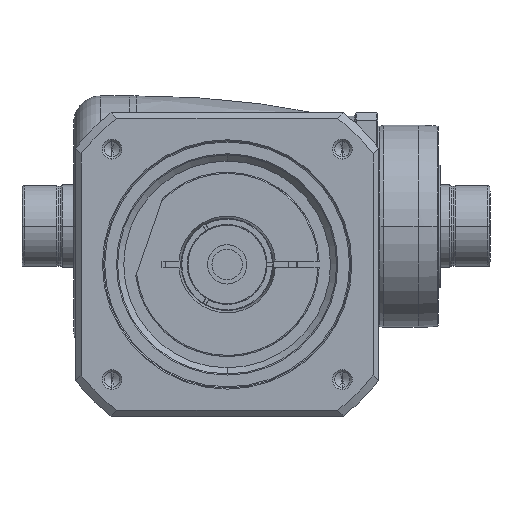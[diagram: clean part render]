
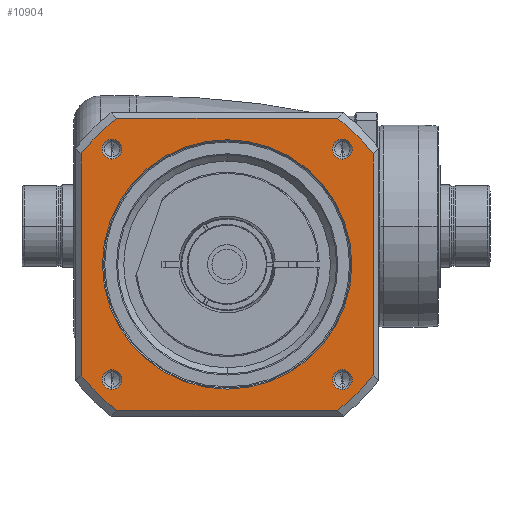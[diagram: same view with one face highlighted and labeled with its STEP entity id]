
A CAD part, front view. The second image highlights one B-rep face of the part: STEP entity #10904.
In plain terms, the highlighted planar face has unit normal (0, -1, 0) as drawn and (0, 0, 1) by its records, which use the part's own axes.
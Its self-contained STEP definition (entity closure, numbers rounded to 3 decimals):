
#9644=CARTESIAN_POINT('',(0.,0.,56.));
#9645=DIRECTION('',(0.,0.,-1.));
#9646=DIRECTION('',(0.,-1.,0.));
#9647=AXIS2_PLACEMENT_3D('',#9644,#9645,#9646);
#9649=CARTESIAN_POINT('',(0.,0.,
56.));
#9650=DIRECTION('',(0.,0.,-1.));
#9651=DIRECTION('',(0.,1.,0.));
#9652=AXIS2_PLACEMENT_3D('',#9649,#9650,#9651);
#9654=DIRECTION('',(1.,0.,0.));
#9655=VECTOR('',#9654,98.331);
#9656=CARTESIAN_POINT('',(-49.166,65.,56.));
#9657=LINE('',#9656,#9655);
#9658=CARTESIAN_POINT('',(0.,0.,56.));
#9659=DIRECTION('',(0.,0.,1.));
#9660=DIRECTION('',(0.798,0.603,0.));
#9661=AXIS2_PLACEMENT_3D('',#9658,#9659,#9660);
#9663=DIRECTION('',(0.,1.,0.));
#9664=VECTOR('',#9663,98.331);
#9665=CARTESIAN_POINT('',(65.,-49.166,56.));
#9666=LINE('',#9665,#9664);
#9667=DIRECTION('',(1.,0.,0.));
#9668=VECTOR('',#9667,98.331);
#9669=CARTESIAN_POINT('',(-49.166,-65.,56.));
#9670=LINE('',#9669,#9668);
#9671=CARTESIAN_POINT('',(0.,0.,56.));
#9672=DIRECTION('',(0.,0.,1.));
#9673=DIRECTION('',(-0.798,-0.603,0.));
#9674=AXIS2_PLACEMENT_3D('',#9671,#9672,#9673);
#9676=DIRECTION('',(0.,1.,0.));
#9677=VECTOR('',#9676,98.331);
#9678=CARTESIAN_POINT('',(-65.,-49.166,56.));
#9679=LINE('',#9678,#9677);
#9694=CARTESIAN_POINT('',(0.,0.,56.));
#9695=DIRECTION('',(0.,0.,1.));
#9696=DIRECTION('',(-0.603,0.798,0.));
#9697=AXIS2_PLACEMENT_3D('',#9694,#9695,#9696);
#9704=CARTESIAN_POINT('',(0.,0.,56.));
#9705=DIRECTION('',(0.,0.,1.));
#9706=DIRECTION('',(0.603,-0.798,0.));
#9707=AXIS2_PLACEMENT_3D('',#9704,#9705,#9706);
#9721=CARTESIAN_POINT('',(-49.166,65.,56.));
#9813=CARTESIAN_POINT('',(65.,-49.166,56.));
#9841=CARTESIAN_POINT('',(49.166,-65.,56.));
#9881=CARTESIAN_POINT('',(-65.,49.166,56.));
#9890=CARTESIAN_POINT('',(-51.265,51.265,56.));
#9891=DIRECTION('',(0.,0.,1.));
#9892=DIRECTION('',(-1.,0.,0.));
#9893=AXIS2_PLACEMENT_3D('',#9890,#9891,#9892);
#9908=CARTESIAN_POINT('',(-51.265,51.265,56.));
#9909=DIRECTION('',(0.,0.,1.));
#9910=DIRECTION('',(1.,0.,0.));
#9911=AXIS2_PLACEMENT_3D('',#9908,#9909,#9910);
#9944=CARTESIAN_POINT('',(51.265,51.265,56.));
#9945=DIRECTION('',(0.,0.,1.));
#9946=DIRECTION('',(-1.,0.,0.));
#9947=AXIS2_PLACEMENT_3D('',#9944,#9945,#9946);
#9962=CARTESIAN_POINT('',(51.265,51.265,56.));
#9963=DIRECTION('',(0.,0.,1.));
#9964=DIRECTION('',(1.,0.,0.));
#9965=AXIS2_PLACEMENT_3D('',#9962,#9963,#9964);
#9998=CARTESIAN_POINT('',(51.265,-51.265,56.));
#9999=DIRECTION('',(0.,0.,1.));
#10000=DIRECTION('',(-1.,0.,0.));
#10001=AXIS2_PLACEMENT_3D('',#9998,#9999,#10000);
#10016=CARTESIAN_POINT('',(51.265,-51.265,56.));
#10017=DIRECTION('',(0.,0.,1.));
#10018=DIRECTION('',(1.,0.,0.));
#10019=AXIS2_PLACEMENT_3D('',#10016,#10017,#10018);
#10052=CARTESIAN_POINT('',(-51.265,-51.265,56.));
#10053=DIRECTION('',(0.,0.,1.));
#10054=DIRECTION('',(-1.,0.,0.));
#10055=AXIS2_PLACEMENT_3D('',#10052,#10053,#10054);
#10070=CARTESIAN_POINT('',(-51.265,-51.265,56.));
#10071=DIRECTION('',(0.,0.,1.));
#10072=DIRECTION('',(1.,0.,0.));
#10073=AXIS2_PLACEMENT_3D('',#10070,#10071,#10072);
#10235=CARTESIAN_POINT('',(-55.665,51.265,56.));
#10236=CARTESIAN_POINT('',(-46.865,51.265,56.));
#10237=VERTEX_POINT('',#10235);
#10238=VERTEX_POINT('',#10236);
#10261=CARTESIAN_POINT('',(-65.,-49.166,56.));
#10262=CARTESIAN_POINT('',(-49.166,-65.,56.));
#10263=VERTEX_POINT('',#10261);
#10264=VERTEX_POINT('',#10262);
#10265=CARTESIAN_POINT('',(65.,49.166,56.));
#10266=CARTESIAN_POINT('',(49.166,65.,56.));
#10267=VERTEX_POINT('',#10265);
#10268=VERTEX_POINT('',#10266);
#10277=VERTEX_POINT('',#9721);
#10280=VERTEX_POINT('',#9813);
#10281=VERTEX_POINT('',#9841);
#10284=VERTEX_POINT('',#9881);
#10293=CARTESIAN_POINT('',(55.665,51.265,56.));
#10294=CARTESIAN_POINT('',(46.865,51.265,56.));
#10295=VERTEX_POINT('',#10293);
#10296=VERTEX_POINT('',#10294);
#10301=CARTESIAN_POINT('',(55.665,-51.265,56.));
#10302=CARTESIAN_POINT('',(46.865,-51.265,56.));
#10303=VERTEX_POINT('',#10301);
#10304=VERTEX_POINT('',#10302);
#10309=CARTESIAN_POINT('',(-46.865,-51.265,56.));
#10310=CARTESIAN_POINT('',(-55.665,-51.265,56.));
#10311=VERTEX_POINT('',#10309);
#10312=VERTEX_POINT('',#10310);
#10317=CARTESIAN_POINT('',(0.,-55.5,56.));
#10318=CARTESIAN_POINT('',(0.,55.5,56.));
#10319=VERTEX_POINT('',#10317);
#10320=VERTEX_POINT('',#10318);
#10852=CARTESIAN_POINT('',(0.,0.,56.));
#10853=DIRECTION('',(0.,0.,1.));
#10854=DIRECTION('',(1.,0.,0.));
#10855=AXIS2_PLACEMENT_3D('',#10852,#10853,#10854);
#10856=PLANE('',#10855);
#10858=ORIENTED_EDGE('',*,*,#10857,.F.);
#10860=ORIENTED_EDGE('',*,*,#10859,.T.);
#10862=ORIENTED_EDGE('',*,*,#10861,.F.);
#10864=ORIENTED_EDGE('',*,*,#10863,.F.);
#10866=ORIENTED_EDGE('',*,*,#10865,.F.);
#10868=ORIENTED_EDGE('',*,*,#10867,.F.);
#10870=ORIENTED_EDGE('',*,*,#10869,.F.);
#10872=ORIENTED_EDGE('',*,*,#10871,.T.);
#10873=EDGE_LOOP('',(#10858,#10860,#10862,#10864,#10866,#10868,#10870,#10872));
#10874=FACE_OUTER_BOUND('',#10873,.F.);
#10875=ORIENTED_EDGE('',*,*,#10842,.F.);
#10877=ORIENTED_EDGE('',*,*,#10876,.F.);
#10878=EDGE_LOOP('',(#10875,#10877));
#10879=FACE_BOUND('',#10878,.F.);
#10881=ORIENTED_EDGE('',*,*,#10880,.T.);
#10883=ORIENTED_EDGE('',*,*,#10882,.T.);
#10884=EDGE_LOOP('',(#10881,#10883));
#10885=FACE_BOUND('',#10884,.F.);
#10887=ORIENTED_EDGE('',*,*,#10886,.T.);
#10889=ORIENTED_EDGE('',*,*,#10888,.T.);
#10890=EDGE_LOOP('',(#10887,#10889));
#10891=FACE_BOUND('',#10890,.F.);
#10893=ORIENTED_EDGE('',*,*,#10892,.T.);
#10895=ORIENTED_EDGE('',*,*,#10894,.T.);
#10896=EDGE_LOOP('',(#10893,#10895));
#10897=FACE_BOUND('',#10896,.F.);
#10899=ORIENTED_EDGE('',*,*,#10898,.T.);
#10901=ORIENTED_EDGE('',*,*,#10900,.T.);
#10902=EDGE_LOOP('',(#10899,#10901));
#10903=FACE_BOUND('',#10902,.F.);
#10904=ADVANCED_FACE('',(#10874,#10879,#10885,#10891,#10897,#10903),#10856,.T.);
#9648=CIRCLE('',#9647,55.5);
#9653=CIRCLE('',#9652,55.5);
#9662=CIRCLE('',#9661,81.5);
#9675=CIRCLE('',#9674,81.5);
#9698=CIRCLE('',#9697,81.5);
#9708=CIRCLE('',#9707,81.5);
#9894=CIRCLE('',#9893,4.4);
#9912=CIRCLE('',#9911,4.4);
#9948=CIRCLE('',#9947,4.4);
#9966=CIRCLE('',#9965,4.4);
#10002=CIRCLE('',#10001,4.4);
#10020=CIRCLE('',#10019,4.4);
#10056=CIRCLE('',#10055,4.4);
#10074=CIRCLE('',#10073,4.4);
#10842=EDGE_CURVE('',#10319,#10320,#9648,.T.);
#10857=EDGE_CURVE('',#10277,#10284,#9698,.T.);
#10859=EDGE_CURVE('',#10277,#10268,#9657,.T.);
#10861=EDGE_CURVE('',#10267,#10268,#9662,.T.);
#10863=EDGE_CURVE('',#10280,#10267,#9666,.T.);
#10865=EDGE_CURVE('',#10281,#10280,#9708,.T.);
#10867=EDGE_CURVE('',#10264,#10281,#9670,.T.);
#10869=EDGE_CURVE('',#10263,#10264,#9675,.T.);
#10871=EDGE_CURVE('',#10263,#10284,#9679,.T.);
#10876=EDGE_CURVE('',#10320,#10319,#9653,.T.);
#10880=EDGE_CURVE('',#10237,#10238,#9894,.T.);
#10882=EDGE_CURVE('',#10238,#10237,#9912,.T.);
#10886=EDGE_CURVE('',#10296,#10295,#9948,.T.);
#10888=EDGE_CURVE('',#10295,#10296,#9966,.T.);
#10892=EDGE_CURVE('',#10304,#10303,#10002,.T.);
#10894=EDGE_CURVE('',#10303,#10304,#10020,.T.);
#10898=EDGE_CURVE('',#10312,#10311,#10056,.T.);
#10900=EDGE_CURVE('',#10311,#10312,#10074,.T.);
